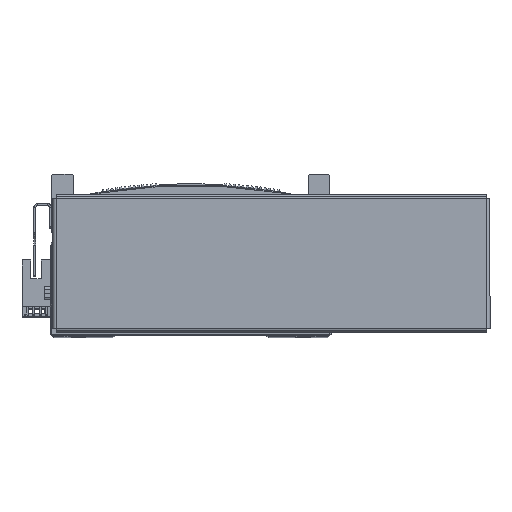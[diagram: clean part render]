
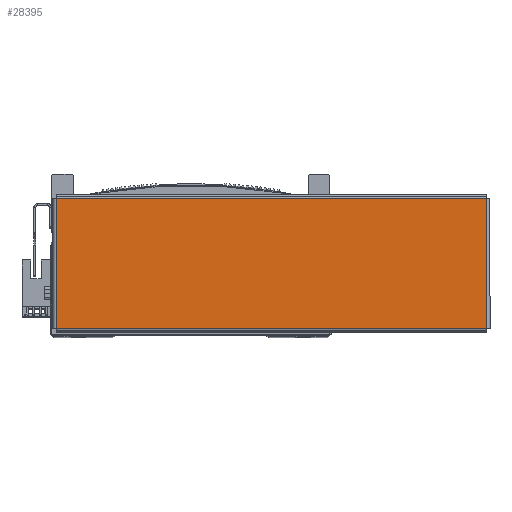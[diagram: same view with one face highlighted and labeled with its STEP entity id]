
A CAD part, top view. The second image highlights one B-rep face of the part: STEP entity #28395.
In plain terms, the highlighted planar face has unit normal (0, 0, 1) as drawn and (0, -1, 0) by its records, which use the part's own axes.
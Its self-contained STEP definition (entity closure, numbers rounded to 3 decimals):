
#76 = CARTESIAN_POINT ( 'NONE',  ( 103.513, -1., -31.393 ) ) ;
#92 = DIRECTION ( 'NONE',  ( 0., 0., 1. ) ) ;
#103 = CARTESIAN_POINT ( 'NONE',  ( -103.543, -1., -31.363 ) ) ;
#105 = DIRECTION ( 'NONE',  ( 1., 0., 0. ) ) ;
#119 = CARTESIAN_POINT ( 'NONE',  ( 103.543, -1., 31.363 ) ) ;
#138 = CARTESIAN_POINT ( 'NONE',  ( -103.513, -1., 31.393 ) ) ;
#139 = DIRECTION ( 'NONE',  ( 0., 0., -1. ) ) ;
#171 = DIRECTION ( 'NONE',  ( -1., 0., 0. ) ) ;
#13370 = CARTESIAN_POINT ( 'NONE',  ( 103.513, -1., 31.363 ) ) ;
#13418 = CARTESIAN_POINT ( 'NONE',  ( -103.513, -1., 31.363 ) ) ;
#13439 = CARTESIAN_POINT ( 'NONE',  ( 103.513, -1., -31.363 ) ) ;
#13481 = CARTESIAN_POINT ( 'NONE',  ( -103.513, -1., -31.363 ) ) ;
#20498 = EDGE_CURVE ( 'NONE', #32083, #32046, #65918, .T. ) ;
#20499 = EDGE_CURVE ( 'NONE', #32094, #32083, #65908, .T. ) ;
#20522 = EDGE_CURVE ( 'NONE', #32076, #32094, #65971, .T. ) ;
#20534 = EDGE_CURVE ( 'NONE', #32046, #32076, #65993, .T. ) ;
#28395 = ADVANCED_FACE ( 'NONE', ( #55379 ), #56411, .F. ) ;
#32046 = VERTEX_POINT ( 'NONE', #13370 ) ;
#32076 = VERTEX_POINT ( 'NONE', #13418 ) ;
#32083 = VERTEX_POINT ( 'NONE', #13439 ) ;
#32094 = VERTEX_POINT ( 'NONE', #13481 ) ;
#37663 = AXIS2_PLACEMENT_3D ( 'NONE', #56439, #56418, #56447 ) ;
#51357 = EDGE_LOOP ( 'NONE', ( #57944, #58039, #58020, #57976 ) ) ;
#55379 = FACE_OUTER_BOUND ( 'NONE', #51357, .T. ) ;
#56411 = PLANE ( 'NONE',  #37663 ) ;
#56418 = DIRECTION ( 'NONE',  ( 0., 1., 0. ) ) ;
#56439 = CARTESIAN_POINT ( 'NONE',  ( 0., -1., 0. ) ) ;
#56447 = DIRECTION ( 'NONE',  ( 0., 0., 1. ) ) ;
#57944 = ORIENTED_EDGE ( 'NONE', *, *, #20534, .T. ) ;
#57976 = ORIENTED_EDGE ( 'NONE', *, *, #20498, .T. ) ;
#58020 = ORIENTED_EDGE ( 'NONE', *, *, #20499, .T. ) ;
#58039 = ORIENTED_EDGE ( 'NONE', *, *, #20522, .T. ) ;
#65884 = VECTOR ( 'NONE', #92, 1000. ) ;
#65886 = VECTOR ( 'NONE', #105, 1000. ) ;
#65908 = LINE ( 'NONE', #103, #65886 ) ;
#65918 = LINE ( 'NONE', #76, #65884 ) ;
#65967 = VECTOR ( 'NONE', #139, 1000. ) ;
#65971 = LINE ( 'NONE', #138, #65967 ) ;
#65993 = LINE ( 'NONE', #119, #66001 ) ;
#66001 = VECTOR ( 'NONE', #171, 1000. ) ;
